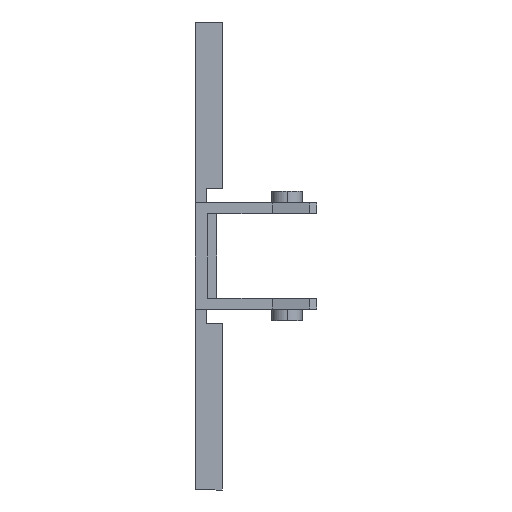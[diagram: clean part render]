
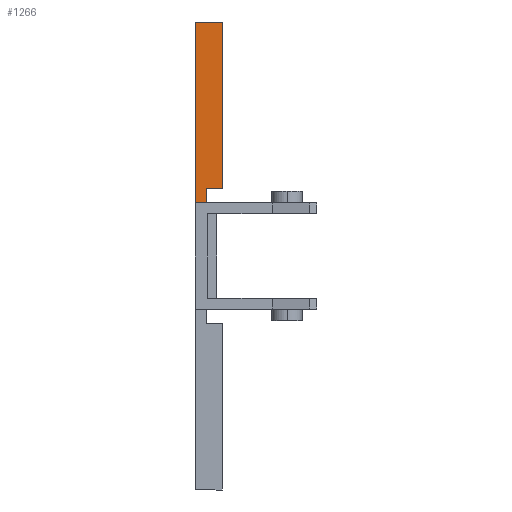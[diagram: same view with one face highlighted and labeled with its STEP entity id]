
A CAD part, front view. The second image highlights one B-rep face of the part: STEP entity #1266.
In plain terms, the highlighted planar face has unit normal (0, -1, 0).
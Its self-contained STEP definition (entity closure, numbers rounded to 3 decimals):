
#150 = AXIS2_PLACEMENT_3D ( 'NONE', #893, #887, #1124 ) ;
#197 = LINE ( 'NONE', #2071, #206 ) ;
#206 = VECTOR ( 'NONE', #2080, 1000. ) ;
#245 = VECTOR ( 'NONE', #2138, 1000. ) ;
#252 = LINE ( 'NONE', #2137, #245 ) ;
#395 = LINE ( 'NONE', #1781, #639 ) ;
#428 = LINE ( 'NONE', #2014, #429 ) ;
#429 = VECTOR ( 'NONE', #2012, 1000. ) ;
#433 = VECTOR ( 'NONE', #2019, 1000. ) ;
#450 = LINE ( 'NONE', #2021, #433 ) ;
#504 = LINE ( 'NONE', #1882, #506 ) ;
#506 = VECTOR ( 'NONE', #1881, 1000. ) ;
#639 = VECTOR ( 'NONE', #1786, 1000. ) ;
#699 = VERTEX_POINT ( 'NONE', #1121 ) ;
#700 = VERTEX_POINT ( 'NONE', #1112 ) ;
#796 = VERTEX_POINT ( 'NONE', #1018 ) ;
#797 = VERTEX_POINT ( 'NONE', #1019 ) ;
#798 = VERTEX_POINT ( 'NONE', #1012 ) ;
#799 = VERTEX_POINT ( 'NONE', #1013 ) ;
#887 = DIRECTION ( 'NONE',  ( 0., 1., 0. ) ) ;
#893 = CARTESIAN_POINT ( 'NONE',  ( 0., -9., 5. ) ) ;
#900 = PLANE ( 'NONE',  #150 ) ;
#1012 = CARTESIAN_POINT ( 'NONE',  ( 1.2, -9., 5.9 ) ) ;
#1013 = CARTESIAN_POINT ( 'NONE',  ( 1.2, -9., 7.5 ) ) ;
#1018 = CARTESIAN_POINT ( 'NONE',  ( 3., -9., 7.5 ) ) ;
#1019 = CARTESIAN_POINT ( 'NONE',  ( 3., -9., 26. ) ) ;
#1112 = CARTESIAN_POINT ( 'NONE',  ( 0., -9., 5.9 ) ) ;
#1121 = CARTESIAN_POINT ( 'NONE',  ( 0., -9., 26. ) ) ;
#1124 = DIRECTION ( 'NONE',  ( 0., 0., 1. ) ) ;
#1266 = ADVANCED_FACE ( 'NONE', ( #2642 ), #900, .F. ) ;
#1369 = EDGE_CURVE ( 'NONE', #700, #699, #395, .T. ) ;
#1439 = EDGE_CURVE ( 'NONE', #796, #799, #504, .T. ) ;
#1466 = EDGE_CURVE ( 'NONE', #699, #797, #450, .T. ) ;
#1470 = EDGE_CURVE ( 'NONE', #798, #700, #428, .T. ) ;
#1507 = EDGE_CURVE ( 'NONE', #797, #796, #197, .T. ) ;
#1536 = EDGE_CURVE ( 'NONE', #799, #798, #252, .T. ) ;
#1781 = CARTESIAN_POINT ( 'NONE',  ( 0., -9., 5. ) ) ;
#1786 = DIRECTION ( 'NONE',  ( 0., 0., 1. ) ) ;
#1881 = DIRECTION ( 'NONE',  ( -1., 0., 0. ) ) ;
#1882 = CARTESIAN_POINT ( 'NONE',  ( 3., -9., 7.5 ) ) ;
#2012 = DIRECTION ( 'NONE',  ( -1., 0., 0. ) ) ;
#2014 = CARTESIAN_POINT ( 'NONE',  ( 0., -9., 5.9 ) ) ;
#2019 = DIRECTION ( 'NONE',  ( 1., 0., 0. ) ) ;
#2021 = CARTESIAN_POINT ( 'NONE',  ( 0., -9., 26. ) ) ;
#2071 = CARTESIAN_POINT ( 'NONE',  ( 3., -9., 26. ) ) ;
#2080 = DIRECTION ( 'NONE',  ( 0., 0., -1. ) ) ;
#2137 = CARTESIAN_POINT ( 'NONE',  ( 1.2, -9., 7.5 ) ) ;
#2138 = DIRECTION ( 'NONE',  ( 0., 0., -1. ) ) ;
#2642 = FACE_OUTER_BOUND ( 'NONE', #2857, .T. ) ;
#2647 = ORIENTED_EDGE ( 'NONE', *, *, #1507, .F. ) ;
#2713 = ORIENTED_EDGE ( 'NONE', *, *, #1470, .F. ) ;
#2715 = ORIENTED_EDGE ( 'NONE', *, *, #1536, .F. ) ;
#2716 = ORIENTED_EDGE ( 'NONE', *, *, #1439, .F. ) ;
#2719 = ORIENTED_EDGE ( 'NONE', *, *, #1466, .F. ) ;
#2720 = ORIENTED_EDGE ( 'NONE', *, *, #1369, .F. ) ;
#2857 = EDGE_LOOP ( 'NONE', ( #2720, #2713, #2715, #2716, #2647, #2719 ) ) ;
